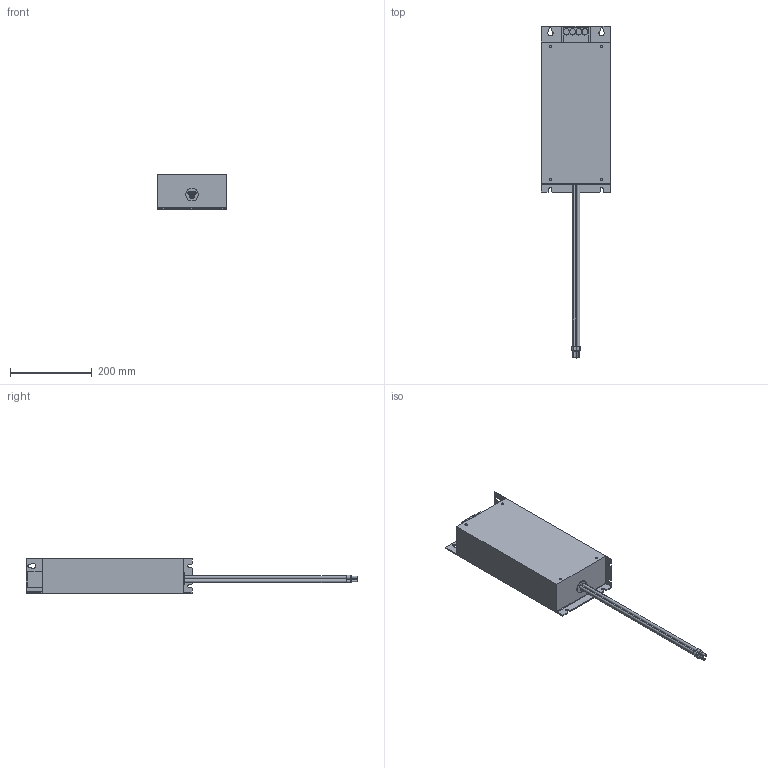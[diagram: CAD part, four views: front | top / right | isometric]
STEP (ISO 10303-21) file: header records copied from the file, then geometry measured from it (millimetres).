
FILE_DESCRIPTION (( 'STEP AP214' ), '1' );
FILE_NAME ('00E6X00-0018.STEP', '2023-07-11T11:22:24', ( '' ), ( '' ), 'SwSTEP 2.0', 'SolidWorks 2022', '' );
FILE_SCHEMA (( 'AUTOMOTIVE_DESIGN' ));
Length unit declared in the file: millimetre
Products named in the file (1): 00E6X00-0018
Bounding box: 170 x 809.95 x 85 mm (x, y, z)
Volume: 5201313.7 mm3; surface area: 271307.5 mm2
Topology: 1 solids, 1 shells, 140 faces, 355 edges, 232 vertices
Faces by surface type: plane 73, cylinder 61, cone 6
Entity records: 4275 total; most frequent: DIRECTION 753, CARTESIAN_POINT 734, ORIENTED_EDGE 710, EDGE_CURVE 355, AXIS2_PLACEMENT_3D 259, LINE 235, VECTOR 235, VERTEX_POINT 232
